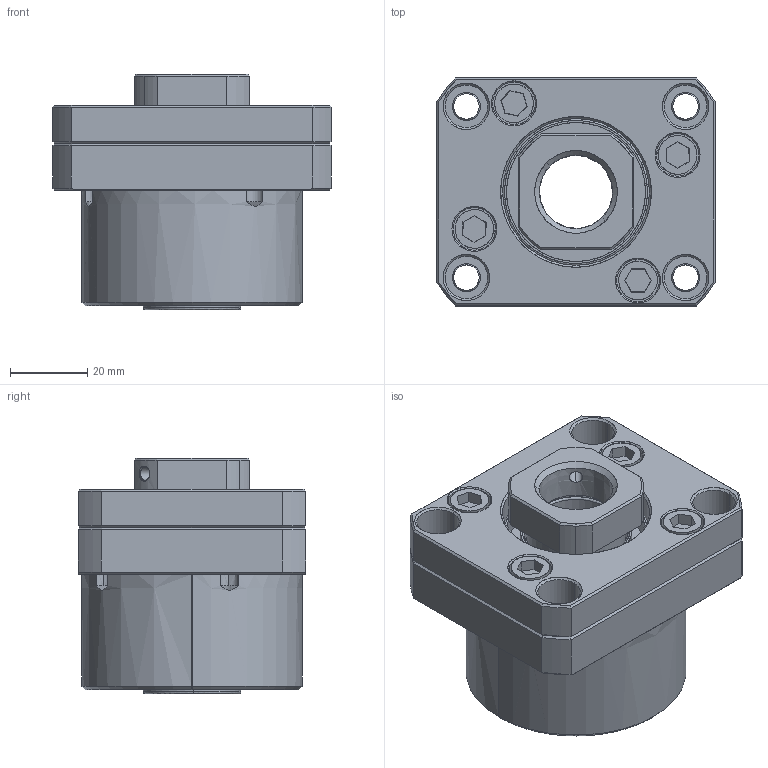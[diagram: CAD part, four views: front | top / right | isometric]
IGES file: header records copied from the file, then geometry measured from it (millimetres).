
Start section: SolidWorks IGES file using analytic representation for surfaces
Bounding box: 72 x 59 x 61 mm (x, y, z)
Surface area: 37358.2 mm2 (no closed solid volume)
Topology: 0 solids, 0 shells, 247 faces, 3464 edges, 3464 vertices
Faces by surface type: revolution 144, bspline 103
